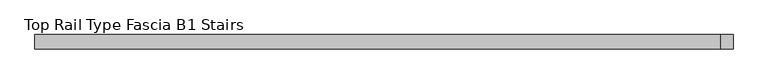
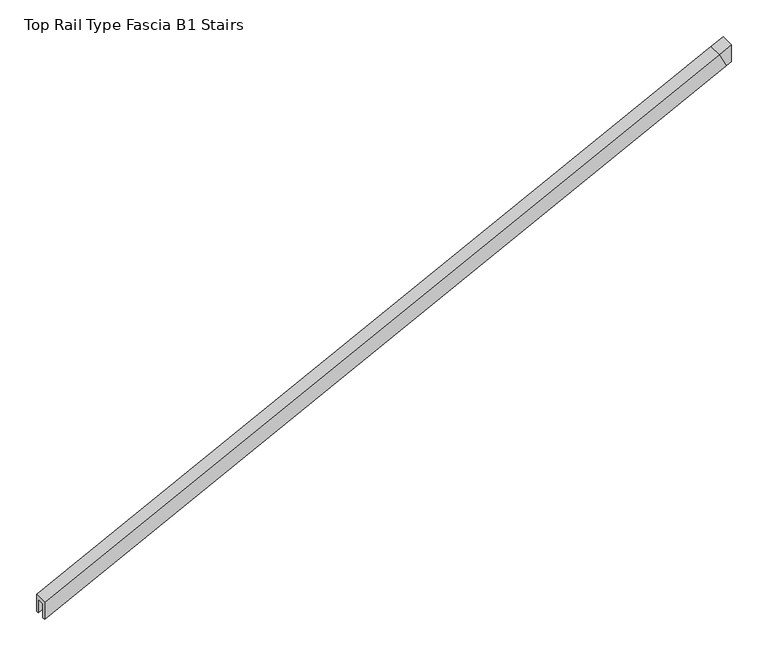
"""IFC4 building model written with IfcOpenShell, lengths in millimetres: proxy geometry, Top Rail Type Fascia B1 Stairs."""

from ifc_helpers import new_model, si_unit, origin, place, context, project, spatial, faceted_brep, source, transform, mapped, element, save


def top_rail_type_fascia_b1_stairs_f61284e1(model_context):
    return source(origin(), model_context, "Body", "Brep", [
        faceted_brep([(6712.0721922, 22792.3176645, 3570.8682927), (6712.0721922, 22814.5426645, 3570.8682927), (6712.0721922, 22814.5426645, 3542.3671041), (6712.0721922, 22809.7801645, 3542.3671041), (6712.0721922, 22809.7801645, 3565.5243198), (6712.0721922, 22797.0801645, 3565.5243198), (6712.0721922, 22797.0801645, 3542.3671041), (6712.0721922, 22792.3176645, 3542.3671041), (7778.8721922, 22792.3176645, 4113.8841994), (7778.8721922, 22814.5426645, 4113.8841994), (7790.394355, 22814.5426645, 4091.2479504), (7790.394355, 22809.7801645, 4091.2479504), (7781.0325977, 22809.7801645, 4109.6399027), (7781.0325977, 22797.0801645, 4109.6399027), (7790.394355, 22797.0801645, 4091.2479504), (7790.394355, 22792.3176645, 4091.2479504), (7798.4793748, 22792.3176645, 4123.8645256), (7798.4793748, 22792.3176645, 4095.363337), (7798.4793748, 22797.0801645, 4095.363337), (7798.4793748, 22797.0801645, 4118.5205527), (7798.4793748, 22809.7801645, 4118.5205527), (7798.4793748, 22809.7801645, 4095.363337), (7798.4793748, 22814.5426645, 4095.363337), (7798.4793748, 22814.5426645, 4123.8645256)], [[[0, 1, 2, 3, 4, 5, 6, 7]], [[1, 0, 8, 9]], [[2, 1, 9, 10]], [[3, 2, 10, 11]], [[4, 3, 11, 12]], [[5, 4, 12, 13]], [[6, 5, 13, 14]], [[7, 6, 14, 15]], [[0, 7, 15, 8]], [[16, 17, 18, 19, 20, 21, 22, 23]], [[9, 8, 16, 23]], [[10, 9, 23, 22]], [[11, 10, 22, 21]], [[12, 11, 21, 20]], [[13, 12, 20, 19]], [[14, 13, 19, 18]], [[15, 14, 18, 17]], [[8, 15, 17, 16]]]),
    ])


if __name__ == "__main__":
    model = new_model("IFC4")
    model_context = context("Model", 3, world=origin())
    ifc_project = project(units=[si_unit("LENGTHUNIT", "METRE", prefix="MILLI")], contexts=[model_context])
    site = spatial("IfcSite", under=ifc_project)
    building = spatial("IfcBuilding", under=site)
    placement = place(None, origin())
    top_rail_type_fascia_b1_stairs_shape = top_rail_type_fascia_b1_stairs_f61284e1(model_context)
    element("IfcBuildingElementProxy", 1, Name="Top Rail Type Fascia B1 Stairs", ObjectType="Top Rail Type Fascia B1 Stairs", at=placement, inside=building, context=model_context, shape_type="MappedRepresentation", body=[
        mapped(top_rail_type_fascia_b1_stairs_shape, transform((0.0, 0.0, 0.0), x_axis=(1.0, 0.0, 0.0), y_axis=(0.0, 1.0, 0.0), z_axis=(0.0, 0.0, 1.0))),
    ])
    save(model, "model.ifc")
